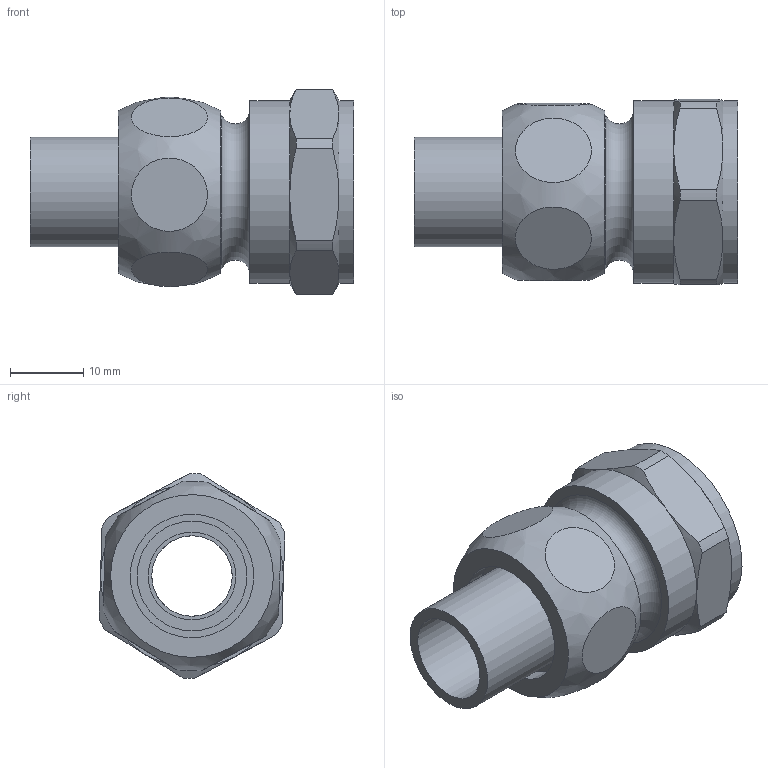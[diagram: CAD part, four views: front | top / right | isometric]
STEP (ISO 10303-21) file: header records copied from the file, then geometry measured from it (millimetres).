
FILE_DESCRIPTION(/* description */ (''),/* implementation_level */ '2;1');
FILE_NAME(/* name */ '\\LG50011\SANHA_Legnica\Engineering\Public\RYSUNKI\SANHA POLSKA\4340G\STP\143401212.stp',/* time_stamp */ '2017-10-23T09:49:31+02:00',/* author */ ('gomulka'),/* organization */ (''),/* preprocessor_version */ 'ST-DEVELOPER v15.6',/* originating_system */ 'Autodesk Inventor 2015',/* authorisation */ '');
FILE_SCHEMA (('AUTOMOTIVE_DESIGN { 1 0 10303 214 3 1 1 }'));
Length unit declared in the file: millimetre
Products named in the file (4): 14381_12-12(1); 14380g_12-12B(2); 14374_12(2); 143401212
Assembly tree (3 placements, depth 2):
  143401212
    14381_12-12(1)
    14380g_12-12B(2)
    14374_12(2)
Bounding box: 44.17 x 25.38 x 28 mm (x, y, z)
Volume: 10601.1 mm3; surface area: 8112.8 mm2
Topology: 3 solids, 3 shells, 60 faces, 120 edges, 76 vertices
Faces by surface type: plane 23, cylinder 18, cone 16, bspline 2, torus 1
Full cylindrical faces by diameter (mm): 11 x2, 12 x1, 15 x2, 16.9 x1, 18.3 x1, 18.63 x2, 20.95 x1, 25 x2
Entity records: 1890 total; most frequent: CARTESIAN_POINT 647, DIRECTION 256, ORIENTED_EDGE 206, AXIS2_PLACEMENT_3D 122, EDGE_CURVE 103, EDGE_LOOP 93, VERTEX_POINT 76, FACE_OUTER_BOUND 60
